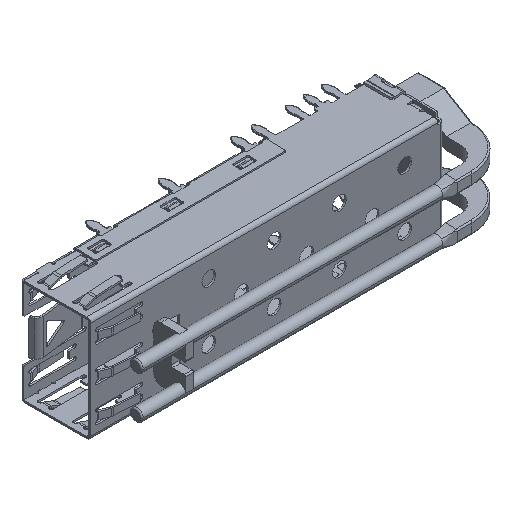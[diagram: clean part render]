
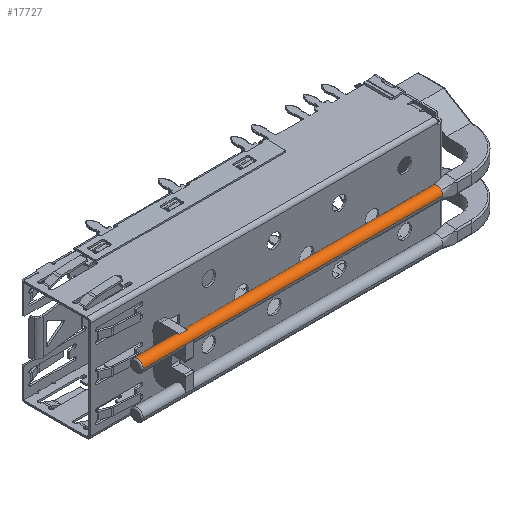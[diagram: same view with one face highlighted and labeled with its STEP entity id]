
A CAD part, isometric view. The second image highlights one B-rep face of the part: STEP entity #17727.
In plain terms, the highlighted cylindrical face has radius 0.825 mm (diameter 1.65 mm), a partial arc.
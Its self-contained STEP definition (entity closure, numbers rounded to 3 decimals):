
#1015 = FACE_OUTER_BOUND ( 'NONE', #37121, .T. ) ;
#1040 = CYLINDRICAL_SURFACE ( 'NONE', #31293, 0.825 ) ;
#15466 = CIRCLE ( 'NONE', #44736, 0.825 ) ;
#15550 = CIRCLE ( 'NONE', #44640, 0.825 ) ;
#15634 = LINE ( 'NONE', #48944, #15692 ) ;
#15662 = CIRCLE ( 'NONE', #44704, 0.825 ) ;
#15692 = VECTOR ( 'NONE', #48923, 1000. ) ;
#15725 = CIRCLE ( 'NONE', #44769, 0.825 ) ;
#16968 = LINE ( 'NONE', #41863, #16972 ) ;
#16972 = VECTOR ( 'NONE', #41881, 1000. ) ;
#17006 = LINE ( 'NONE', #41940, #17038 ) ;
#17011 = LINE ( 'NONE', #41969, #17017 ) ;
#17017 = VECTOR ( 'NONE', #41974, 1000. ) ;
#17038 = VECTOR ( 'NONE', #41924, 1000. ) ;
#17065 = VECTOR ( 'NONE', #49069, 1000. ) ;
#17071 = LINE ( 'NONE', #49068, #17065 ) ;
#17172 = LINE ( 'NONE', #49223, #17184 ) ;
#17179 = CIRCLE ( 'NONE', #44474, 0.825 ) ;
#17184 = VECTOR ( 'NONE', #49216, 1000. ) ;
#17727 = ADVANCED_FACE ( 'NONE', ( #1015 ), #1040, .T. ) ;
#18311 = CARTESIAN_POINT ( 'NONE',  ( -43.52, 0.825, -7.042 ) ) ;
#18337 = DIRECTION ( 'NONE',  ( 1., 0., 0. ) ) ;
#18338 = DIRECTION ( 'NONE',  ( 0., 1., 0. ) ) ;
#24922 = EDGE_CURVE ( 'NONE', #27124, #27126, #16968, .T. ) ;
#24939 = EDGE_CURVE ( 'NONE', #27029, #27121, #17006, .T. ) ;
#24954 = EDGE_CURVE ( 'NONE', #27021, #27107, #17011, .T. ) ;
#24972 = EDGE_CURVE ( 'NONE', #26999, #27076, #17071, .T. ) ;
#25031 = EDGE_CURVE ( 'NONE', #27076, #27124, #17172, .T. ) ;
#25034 = EDGE_CURVE ( 'NONE', #27071, #27029, #17179, .T. ) ;
#25173 = EDGE_CURVE ( 'NONE', #27361, #27107, #47377, .T. ) ;
#25181 = EDGE_CURVE ( 'NONE', #27243, #27126, #15550, .T. ) ;
#25186 = EDGE_CURVE ( 'NONE', #27021, #26999, #15466, .T. ) ;
#25222 = EDGE_CURVE ( 'NONE', #27121, #27237, #15662, .T. ) ;
#25228 = EDGE_CURVE ( 'NONE', #27361, #27071, #15634, .T. ) ;
#25230 = EDGE_CURVE ( 'NONE', #27237, #27243, #15725, .T. ) ;
#26999 = VERTEX_POINT ( 'NONE', #46322 ) ;
#27021 = VERTEX_POINT ( 'NONE', #46238 ) ;
#27029 = VERTEX_POINT ( 'NONE', #46289 ) ;
#27071 = VERTEX_POINT ( 'NONE', #46258 ) ;
#27076 = VERTEX_POINT ( 'NONE', #46442 ) ;
#27107 = VERTEX_POINT ( 'NONE', #46497 ) ;
#27121 = VERTEX_POINT ( 'NONE', #46436 ) ;
#27124 = VERTEX_POINT ( 'NONE', #46366 ) ;
#27126 = VERTEX_POINT ( 'NONE', #46415 ) ;
#27237 = VERTEX_POINT ( 'NONE', #46641 ) ;
#27243 = VERTEX_POINT ( 'NONE', #46659 ) ;
#27361 = VERTEX_POINT ( 'NONE', #43876 ) ;
#31293 = AXIS2_PLACEMENT_3D ( 'NONE', #18311, #18337, #18338 ) ;
#37121 = EDGE_LOOP ( 'NONE', ( #40239, #40238, #40260, #40242, #40280, #40324, #40256, #40258, #40244, #40281, #40233, #40248 ) ) ;
#40233 = ORIENTED_EDGE ( 'NONE', *, *, #25228, .F. ) ;
#40238 = ORIENTED_EDGE ( 'NONE', *, *, #25186, .T. ) ;
#40239 = ORIENTED_EDGE ( 'NONE', *, *, #24954, .F. ) ;
#40242 = ORIENTED_EDGE ( 'NONE', *, *, #25031, .T. ) ;
#40244 = ORIENTED_EDGE ( 'NONE', *, *, #24939, .F. ) ;
#40248 = ORIENTED_EDGE ( 'NONE', *, *, #25173, .T. ) ;
#40256 = ORIENTED_EDGE ( 'NONE', *, *, #25230, .F. ) ;
#40258 = ORIENTED_EDGE ( 'NONE', *, *, #25222, .F. ) ;
#40260 = ORIENTED_EDGE ( 'NONE', *, *, #24972, .T. ) ;
#40280 = ORIENTED_EDGE ( 'NONE', *, *, #24922, .T. ) ;
#40281 = ORIENTED_EDGE ( 'NONE', *, *, #25034, .F. ) ;
#40324 = ORIENTED_EDGE ( 'NONE', *, *, #25181, .F. ) ;
#41863 = CARTESIAN_POINT ( 'NONE',  ( -43.52, 1.65, -7.042 ) ) ;
#41881 = DIRECTION ( 'NONE',  ( 1., 0., 0. ) ) ;
#41924 = DIRECTION ( 'NONE',  ( 1., 0., 0. ) ) ;
#41940 = CARTESIAN_POINT ( 'NONE',  ( -43.52, 0., -7.042 ) ) ;
#41969 = CARTESIAN_POINT ( 'NONE',  ( -43.52, 0., -7.042 ) ) ;
#41974 = DIRECTION ( 'NONE',  ( 1., 0., 0. ) ) ;
#43876 = CARTESIAN_POINT ( 'NONE',  ( -37.466, 0.825, -7.867 ) ) ;
#44474 = AXIS2_PLACEMENT_3D ( 'NONE', #49236, #49208, #49224 ) ;
#44640 = AXIS2_PLACEMENT_3D ( 'NONE', #48762, #48736, #48740 ) ;
#44704 = AXIS2_PLACEMENT_3D ( 'NONE', #48895, #48883, #48869 ) ;
#44736 = AXIS2_PLACEMENT_3D ( 'NONE', #48734, #48737, #48722 ) ;
#44769 = AXIS2_PLACEMENT_3D ( 'NONE', #48942, #48914, #48941 ) ;
#46238 = CARTESIAN_POINT ( 'NONE',  ( -43.32, 0., -7.042 ) ) ;
#46258 = CARTESIAN_POINT ( 'NONE',  ( -36.37, 0.825, -7.867 ) ) ;
#46289 = CARTESIAN_POINT ( 'NONE',  ( -36.37, 0., -7.042 ) ) ;
#46322 = CARTESIAN_POINT ( 'NONE',  ( -43.32, 1.65, -7.042 ) ) ;
#46366 = CARTESIAN_POINT ( 'NONE',  ( -36.37, 1.65, -7.042 ) ) ;
#46415 = CARTESIAN_POINT ( 'NONE',  ( -2., 1.65, -7.042 ) ) ;
#46436 = CARTESIAN_POINT ( 'NONE',  ( -2., 0., -7.042 ) ) ;
#46442 = CARTESIAN_POINT ( 'NONE',  ( -37.488, 1.65, -7.042 ) ) ;
#46497 = CARTESIAN_POINT ( 'NONE',  ( -37.445, 0., -7.042 ) ) ;
#46641 = CARTESIAN_POINT ( 'NONE',  ( -2., 0.242, -7.626 ) ) ;
#46659 = CARTESIAN_POINT ( 'NONE',  ( -2., 1.408, -7.626 ) ) ;
#47377 =( BOUNDED_CURVE ( )  B_SPLINE_CURVE ( 3, ( #48706, #48708, #48703, #48699 ),
 .UNSPECIFIED., .F., .F. ) 
 B_SPLINE_CURVE_WITH_KNOTS ( ( 4, 4 ),
 ( 4.712, 6.283 ),
 .UNSPECIFIED. ) 
 CURVE ( )  GEOMETRIC_REPRESENTATION_ITEM ( )  RATIONAL_B_SPLINE_CURVE ( ( 1., 0.805, 0.805, 1. ) ) 
 REPRESENTATION_ITEM ( '' )  );
#48699 = CARTESIAN_POINT ( 'NONE',  ( -37.445, 0., -7.042 ) ) ;
#48703 = CARTESIAN_POINT ( 'NONE',  ( -37.445, 0., -7.526 ) ) ;
#48706 = CARTESIAN_POINT ( 'NONE',  ( -37.466, 0.825, -7.867 ) ) ;
#48708 = CARTESIAN_POINT ( 'NONE',  ( -37.454, 0.342, -7.867 ) ) ;
#48722 = DIRECTION ( 'NONE',  ( 0., -1., 0. ) ) ;
#48734 = CARTESIAN_POINT ( 'NONE',  ( -43.32, 0.825, -7.042 ) ) ;
#48736 = DIRECTION ( 'NONE',  ( 1., 0., 0. ) ) ;
#48737 = DIRECTION ( 'NONE',  ( 1., 0., 0. ) ) ;
#48740 = DIRECTION ( 'NONE',  ( 0., -1., 0. ) ) ;
#48762 = CARTESIAN_POINT ( 'NONE',  ( -2., 0.825, -7.042 ) ) ;
#48869 = DIRECTION ( 'NONE',  ( 0., -1., 0. ) ) ;
#48883 = DIRECTION ( 'NONE',  ( 1., 0., 0. ) ) ;
#48895 = CARTESIAN_POINT ( 'NONE',  ( -2., 0.825, -7.042 ) ) ;
#48914 = DIRECTION ( 'NONE',  ( 1., 0., 0. ) ) ;
#48923 = DIRECTION ( 'NONE',  ( 1., 0., 0. ) ) ;
#48941 = DIRECTION ( 'NONE',  ( 0., -1., 0. ) ) ;
#48942 = CARTESIAN_POINT ( 'NONE',  ( -2., 0.825, -7.042 ) ) ;
#48944 = CARTESIAN_POINT ( 'NONE',  ( -37.37, 0.825, -7.867 ) ) ;
#49068 = CARTESIAN_POINT ( 'NONE',  ( -43.52, 1.65, -7.042 ) ) ;
#49069 = DIRECTION ( 'NONE',  ( 1., 0., 0. ) ) ;
#49208 = DIRECTION ( 'NONE',  ( -1., 0., 0. ) ) ;
#49216 = DIRECTION ( 'NONE',  ( 1., 0., 0. ) ) ;
#49223 = CARTESIAN_POINT ( 'NONE',  ( -37.37, 1.65, -7.042 ) ) ;
#49224 = DIRECTION ( 'NONE',  ( 0., -1., 0. ) ) ;
#49236 = CARTESIAN_POINT ( 'NONE',  ( -36.37, 0.825, -7.042 ) ) ;
